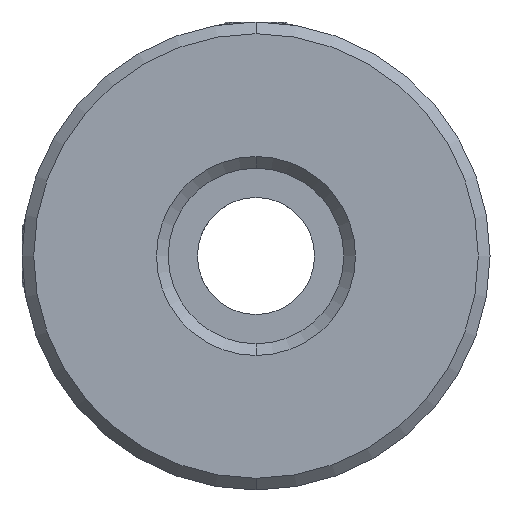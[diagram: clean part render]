
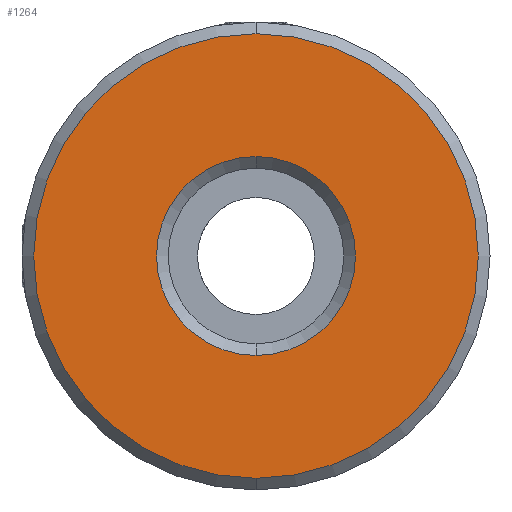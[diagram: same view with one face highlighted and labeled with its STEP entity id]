
A CAD part, front view. The second image highlights one B-rep face of the part: STEP entity #1264.
In plain terms, the highlighted planar face has unit normal (0, -1, 0).
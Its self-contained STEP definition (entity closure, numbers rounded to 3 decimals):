
#13 = ORIENTED_EDGE ( 'NONE', *, *, #2784, .T. ) ;
#58 = DIRECTION ( 'NONE',  ( 0., 0., 1. ) ) ;
#128 = AXIS2_PLACEMENT_3D ( 'NONE', #1697, #2847, #1120 ) ;
#344 = CARTESIAN_POINT ( 'NONE',  ( -10.188, -0.277, 0.046 ) ) ;
#403 = VERTEX_POINT ( 'NONE', #2061 ) ;
#724 = ORIENTED_EDGE ( 'NONE', *, *, #1864, .T. ) ;
#868 = CIRCLE ( 'NONE', #2986, 15.2 ) ;
#964 = DIRECTION ( 'NONE',  ( 0., -1., 0. ) ) ;
#965 = CARTESIAN_POINT ( 'NONE',  ( -10.188, -0.277, -15.154 ) ) ;
#1076 = AXIS2_PLACEMENT_3D ( 'NONE', #2756, #3666, #2214 ) ;
#1120 = DIRECTION ( 'NONE',  ( 0., 0., 1. ) ) ;
#1182 = CARTESIAN_POINT ( 'NONE',  ( -10.188, -0.277, 0.046 ) ) ;
#1202 = CARTESIAN_POINT ( 'NONE',  ( -10.188, -0.277, -6.754 ) ) ;
#1264 = ADVANCED_FACE ( 'NONE', ( #2724, #3301 ), #1889, .F. ) ;
#1336 = ORIENTED_EDGE ( 'NONE', *, *, #1885, .T. ) ;
#1697 = CARTESIAN_POINT ( 'NONE',  ( -10.188, -0.277, 0.046 ) ) ;
#1726 = EDGE_LOOP ( 'NONE', ( #13, #1336 ) ) ;
#1864 = EDGE_CURVE ( 'NONE', #3489, #403, #868, .T. ) ;
#1885 = EDGE_CURVE ( 'NONE', #2362, #2310, #2081, .T. ) ;
#1889 = PLANE ( 'NONE',  #1076 ) ;
#1931 = CIRCLE ( 'NONE', #2115, 15.2 ) ;
#2019 = DIRECTION ( 'NONE',  ( 0., 0., 1. ) ) ;
#2061 = CARTESIAN_POINT ( 'NONE',  ( -10.188, -0.277, 15.246 ) ) ;
#2081 = CIRCLE ( 'NONE', #128, 6.8 ) ;
#2115 = AXIS2_PLACEMENT_3D ( 'NONE', #344, #964, #58 ) ;
#2117 = CIRCLE ( 'NONE', #2775, 6.8 ) ;
#2214 = DIRECTION ( 'NONE',  ( 0., 0., 1. ) ) ;
#2310 = VERTEX_POINT ( 'NONE', #1202 ) ;
#2362 = VERTEX_POINT ( 'NONE', #2633 ) ;
#2364 = EDGE_CURVE ( 'NONE', #403, #3489, #1931, .T. ) ;
#2560 = CARTESIAN_POINT ( 'NONE',  ( -10.188, -0.277, 0.046 ) ) ;
#2633 = CARTESIAN_POINT ( 'NONE',  ( -10.188, -0.277, 6.846 ) ) ;
#2702 = EDGE_LOOP ( 'NONE', ( #2953, #724 ) ) ;
#2724 = FACE_OUTER_BOUND ( 'NONE', #2702, .T. ) ;
#2756 = CARTESIAN_POINT ( 'NONE',  ( -10.188, -0.277, 0.046 ) ) ;
#2775 = AXIS2_PLACEMENT_3D ( 'NONE', #1182, #2946, #2930 ) ;
#2784 = EDGE_CURVE ( 'NONE', #2310, #2362, #2117, .T. ) ;
#2847 = DIRECTION ( 'NONE',  ( 0., 1., 0. ) ) ;
#2930 = DIRECTION ( 'NONE',  ( 0., 0., 1. ) ) ;
#2946 = DIRECTION ( 'NONE',  ( 0., 1., 0. ) ) ;
#2953 = ORIENTED_EDGE ( 'NONE', *, *, #2364, .T. ) ;
#2986 = AXIS2_PLACEMENT_3D ( 'NONE', #2560, #3460, #2019 ) ;
#3301 = FACE_BOUND ( 'NONE', #1726, .T. ) ;
#3460 = DIRECTION ( 'NONE',  ( 0., -1., 0. ) ) ;
#3489 = VERTEX_POINT ( 'NONE', #965 ) ;
#3666 = DIRECTION ( 'NONE',  ( 0., 1., 0. ) ) ;
